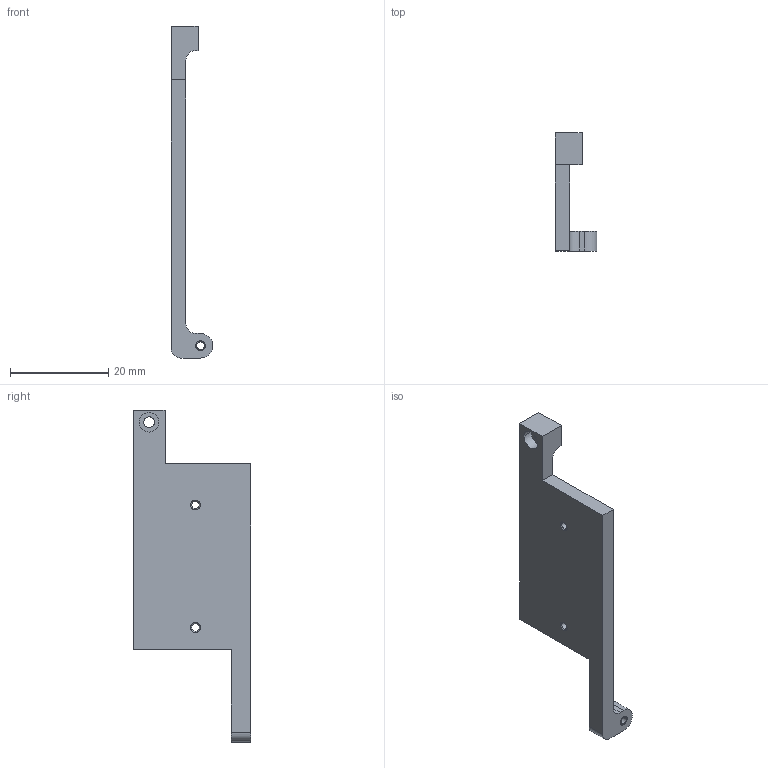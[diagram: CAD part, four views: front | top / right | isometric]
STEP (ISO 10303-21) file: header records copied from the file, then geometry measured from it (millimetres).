
FILE_DESCRIPTION(/* description */ ('(C) Elphel, Inc. 2012. Licensed under CERN OHL v.1.1 or later, see http://ohwr.org/cernohl'),/* implementation_level */ '2;1');
FILE_NAME(/* name */ '0353-19-733',/* time_stamp */ '2012-06-04T14:43:20-06:00',/* author */ (''),/* organization */ ('Elphel, Inc'),/* preprocessor_version */ 'ST-DEVELOPER v12',/* originating_system */ 'VariCAD 2012-1.04; kernel version (20100102)',/* authorisation */ '');
FILE_SCHEMA (('AUTOMOTIVE_DESIGN'));
Length unit declared in the file: millimetre
Products named in the file (1): Part
Bounding box: 8.5 x 24 x 67.7 mm (x, y, z)
Volume: 3294.6 mm3; surface area: 2996.4 mm2
Topology: 4 solids, 4 shells, 49 faces, 117 edges, 74 vertices
Faces by surface type: cylinder 26, plane 17, cone 6
Entity records: 1859 total; most frequent: DIRECTION 277, CARTESIAN_POINT 245, ORIENTED_EDGE 234, EDGE_CURVE 117, AXIS2_PLACEMENT_3D 106, VERTEX_POINT 74, LINE 65, VECTOR 65
